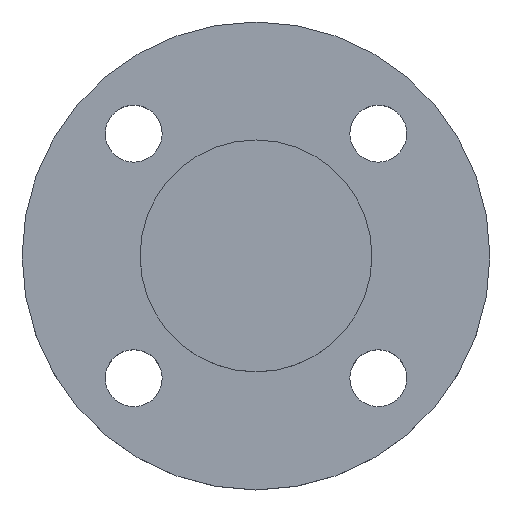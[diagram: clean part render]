
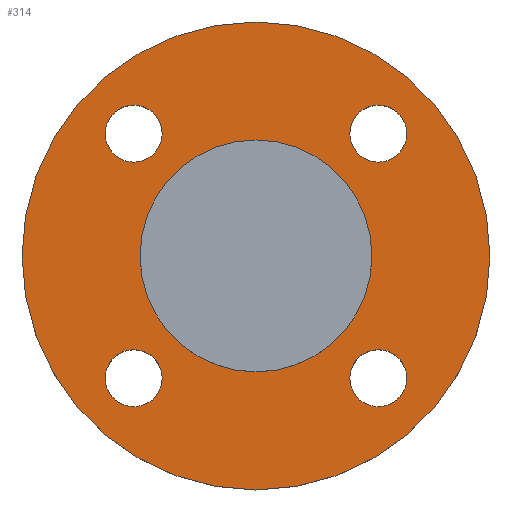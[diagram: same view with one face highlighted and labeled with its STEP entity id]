
A CAD part, top view. The second image highlights one B-rep face of the part: STEP entity #314.
In plain terms, the highlighted planar face has unit normal (0, 0, 1).
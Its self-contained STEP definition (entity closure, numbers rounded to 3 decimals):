
#2 = EDGE_CURVE ( 'NONE', #334, #336, #414, .T. ) ;
#11 = CIRCLE ( 'NONE', #26, 7. ) ;
#12 = CARTESIAN_POINT ( 'NONE',  ( 28.5, 0., -4.5 ) ) ;
#16 = EDGE_CURVE ( 'NONE', #481, #331, #11, .T. ) ;
#26 = AXIS2_PLACEMENT_3D ( 'NONE', #515, #517, #518 ) ;
#36 = CARTESIAN_POINT ( 'NONE',  ( 57.5, 0., -4.5 ) ) ;
#47 = EDGE_CURVE ( 'NONE', #485, #333, #251, .T. ) ;
#58 = AXIS2_PLACEMENT_3D ( 'NONE', #309, #298, #299 ) ;
#61 = DIRECTION ( 'NONE',  ( 0., 0., -1. ) ) ;
#64 = DIRECTION ( 'NONE',  ( 0., 0., -1. ) ) ;
#66 = EDGE_CURVE ( 'NONE', #442, #470, #339, .T. ) ;
#67 = DIRECTION ( 'NONE',  ( 1., 0., 0. ) ) ;
#73 = DIRECTION ( 'NONE',  ( 0., 0., -1. ) ) ;
#77 = CIRCLE ( 'NONE', #58, 57.5 ) ;
#80 = CARTESIAN_POINT ( 'NONE',  ( -30.052, -30.052, -4.5 ) ) ;
#81 = CARTESIAN_POINT ( 'NONE',  ( -57.5, 0., -4.5 ) ) ;
#83 = CARTESIAN_POINT ( 'NONE',  ( -30.052, 30.052, -4.5 ) ) ;
#94 = AXIS2_PLACEMENT_3D ( 'NONE', #205, #207, #213 ) ;
#116 = AXIS2_PLACEMENT_3D ( 'NONE', #636, #647, #648 ) ;
#125 = CIRCLE ( 'NONE', #94, 7. ) ;
#135 = FACE_BOUND ( 'NONE', #330, .T. ) ;
#136 = FACE_BOUND ( 'NONE', #492, .T. ) ;
#138 = FACE_BOUND ( 'NONE', #427, .T. ) ;
#139 = FACE_BOUND ( 'NONE', #379, .T. ) ;
#140 = FACE_BOUND ( 'NONE', #487, .T. ) ;
#141 = FACE_OUTER_BOUND ( 'NONE', #475, .T. ) ;
#142 = PLANE ( 'NONE',  #219 ) ;
#143 = CARTESIAN_POINT ( 'NONE',  ( 28.5, 0., -4.5 ) ) ;
#144 = DIRECTION ( 'NONE',  ( 0., 0., 1. ) ) ;
#145 = DIRECTION ( 'NONE',  ( 1., 0., 0. ) ) ;
#152 = CIRCLE ( 'NONE', #116, 57.5 ) ;
#166 = CIRCLE ( 'NONE', #268, 7. ) ;
#186 = CARTESIAN_POINT ( 'NONE',  ( 30.052, -30.052, -4.5 ) ) ;
#188 = DIRECTION ( 'NONE',  ( 0., 0., -1. ) ) ;
#189 = DIRECTION ( 'NONE',  ( 1., 0., 0. ) ) ;
#192 = CARTESIAN_POINT ( 'NONE',  ( 0., 0., -4.5 ) ) ;
#195 = DIRECTION ( 'NONE',  ( 1., 0., 0. ) ) ;
#199 = CARTESIAN_POINT ( 'NONE',  ( -23.052, -30.052, -4.5 ) ) ;
#205 = CARTESIAN_POINT ( 'NONE',  ( 30.052, 30.052, -4.5 ) ) ;
#206 = DIRECTION ( 'NONE',  ( -1., 0., 0. ) ) ;
#207 = DIRECTION ( 'NONE',  ( 0., 0., -1. ) ) ;
#209 = CIRCLE ( 'NONE', #287, 7. ) ;
#213 = DIRECTION ( 'NONE',  ( 1., 0., 0. ) ) ;
#219 = AXIS2_PLACEMENT_3D ( 'NONE', #143, #144, #145 ) ;
#222 = AXIS2_PLACEMENT_3D ( 'NONE', #502, #503, #505 ) ;
#229 = AXIS2_PLACEMENT_3D ( 'NONE', #530, #531, #532 ) ;
#234 = AXIS2_PLACEMENT_3D ( 'NONE', #542, #543, #545 ) ;
#248 = CIRCLE ( 'NONE', #410, 7. ) ;
#251 = CIRCLE ( 'NONE', #229, 28.5 ) ;
#255 = EDGE_CURVE ( 'NONE', #486, #484, #152, .T. ) ;
#259 = CARTESIAN_POINT ( 'NONE',  ( -37.052, -30.052, -4.5 ) ) ;
#262 = CARTESIAN_POINT ( 'NONE',  ( -28.5, 0., -4.5 ) ) ;
#263 = CARTESIAN_POINT ( 'NONE',  ( -37.052, 30.052, -4.5 ) ) ;
#264 = CARTESIAN_POINT ( 'NONE',  ( -23.052, 30.052, -4.5 ) ) ;
#265 = CARTESIAN_POINT ( 'NONE',  ( 23.052, -30.052, -4.5 ) ) ;
#268 = AXIS2_PLACEMENT_3D ( 'NONE', #186, #188, #189 ) ;
#274 = AXIS2_PLACEMENT_3D ( 'NONE', #294, #296, #303 ) ;
#275 = CARTESIAN_POINT ( 'NONE',  ( 37.052, -30.052, -4.5 ) ) ;
#287 = AXIS2_PLACEMENT_3D ( 'NONE', #83, #73, #195 ) ;
#294 = CARTESIAN_POINT ( 'NONE',  ( 30.052, -30.052, -4.5 ) ) ;
#296 = DIRECTION ( 'NONE',  ( 0., 0., -1. ) ) ;
#298 = DIRECTION ( 'NONE',  ( 0., 0., -1. ) ) ;
#299 = DIRECTION ( 'NONE',  ( -1., 0., 0. ) ) ;
#301 = CARTESIAN_POINT ( 'NONE',  ( 23.052, 30.052, -4.5 ) ) ;
#303 = DIRECTION ( 'NONE',  ( 1., 0., 0. ) ) ;
#305 = CARTESIAN_POINT ( 'NONE',  ( 37.052, 30.052, -4.5 ) ) ;
#309 = CARTESIAN_POINT ( 'NONE',  ( 0., 0., -4.5 ) ) ;
#314 = ADVANCED_FACE ( 'NONE', ( #135, #136, #138, #139, #140, #141 ), #142, .T. ) ;
#316 = AXIS2_PLACEMENT_3D ( 'NONE', #192, #64, #206 ) ;
#330 = EDGE_LOOP ( 'NONE', ( #393, #394 ) ) ;
#331 = VERTEX_POINT ( 'NONE', #259 ) ;
#333 = VERTEX_POINT ( 'NONE', #262 ) ;
#334 = VERTEX_POINT ( 'NONE', #263 ) ;
#336 = VERTEX_POINT ( 'NONE', #264 ) ;
#338 = VERTEX_POINT ( 'NONE', #265 ) ;
#339 = CIRCLE ( 'NONE', #234, 7. ) ;
#363 = VERTEX_POINT ( 'NONE', #275 ) ;
#379 = EDGE_LOOP ( 'NONE', ( #400, #401 ) ) ;
#393 = ORIENTED_EDGE ( 'NONE', *, *, #473, .T. ) ;
#394 = ORIENTED_EDGE ( 'NONE', *, *, #440, .T. ) ;
#396 = ORIENTED_EDGE ( 'NONE', *, *, #16, .T. ) ;
#397 = ORIENTED_EDGE ( 'NONE', *, *, #562, .T. ) ;
#398 = ORIENTED_EDGE ( 'NONE', *, *, #501, .T. ) ;
#399 = ORIENTED_EDGE ( 'NONE', *, *, #2, .T. ) ;
#400 = ORIENTED_EDGE ( 'NONE', *, *, #66, .T. ) ;
#401 = ORIENTED_EDGE ( 'NONE', *, *, #615, .T. ) ;
#402 = ORIENTED_EDGE ( 'NONE', *, *, #573, .T. ) ;
#403 = ORIENTED_EDGE ( 'NONE', *, *, #47, .T. ) ;
#404 = ORIENTED_EDGE ( 'NONE', *, *, #450, .F. ) ;
#405 = ORIENTED_EDGE ( 'NONE', *, *, #255, .F. ) ;
#410 = AXIS2_PLACEMENT_3D ( 'NONE', #80, #61, #67 ) ;
#414 = CIRCLE ( 'NONE', #222, 7. ) ;
#427 = EDGE_LOOP ( 'NONE', ( #398, #399 ) ) ;
#440 = EDGE_CURVE ( 'NONE', #338, #363, #616, .T. ) ;
#442 = VERTEX_POINT ( 'NONE', #305 ) ;
#450 = EDGE_CURVE ( 'NONE', #484, #486, #77, .T. ) ;
#470 = VERTEX_POINT ( 'NONE', #301 ) ;
#473 = EDGE_CURVE ( 'NONE', #363, #338, #166, .T. ) ;
#475 = EDGE_LOOP ( 'NONE', ( #404, #405 ) ) ;
#481 = VERTEX_POINT ( 'NONE', #199 ) ;
#484 = VERTEX_POINT ( 'NONE', #36 ) ;
#485 = VERTEX_POINT ( 'NONE', #12 ) ;
#486 = VERTEX_POINT ( 'NONE', #81 ) ;
#487 = EDGE_LOOP ( 'NONE', ( #402, #403 ) ) ;
#492 = EDGE_LOOP ( 'NONE', ( #396, #397 ) ) ;
#501 = EDGE_CURVE ( 'NONE', #336, #334, #209, .T. ) ;
#502 = CARTESIAN_POINT ( 'NONE',  ( -30.052, 30.052, -4.5 ) ) ;
#503 = DIRECTION ( 'NONE',  ( 0., 0., -1. ) ) ;
#505 = DIRECTION ( 'NONE',  ( 1., 0., 0. ) ) ;
#515 = CARTESIAN_POINT ( 'NONE',  ( -30.052, -30.052, -4.5 ) ) ;
#517 = DIRECTION ( 'NONE',  ( 0., 0., -1. ) ) ;
#518 = DIRECTION ( 'NONE',  ( 1., 0., 0. ) ) ;
#530 = CARTESIAN_POINT ( 'NONE',  ( 0., 0., -4.5 ) ) ;
#531 = DIRECTION ( 'NONE',  ( 0., 0., -1. ) ) ;
#532 = DIRECTION ( 'NONE',  ( -1., 0., 0. ) ) ;
#542 = CARTESIAN_POINT ( 'NONE',  ( 30.052, 30.052, -4.5 ) ) ;
#543 = DIRECTION ( 'NONE',  ( 0., 0., -1. ) ) ;
#545 = DIRECTION ( 'NONE',  ( 1., 0., 0. ) ) ;
#562 = EDGE_CURVE ( 'NONE', #331, #481, #248, .T. ) ;
#573 = EDGE_CURVE ( 'NONE', #333, #485, #602, .T. ) ;
#602 = CIRCLE ( 'NONE', #316, 28.5 ) ;
#615 = EDGE_CURVE ( 'NONE', #470, #442, #125, .T. ) ;
#616 = CIRCLE ( 'NONE', #274, 7. ) ;
#636 = CARTESIAN_POINT ( 'NONE',  ( 0., 0., -4.5 ) ) ;
#647 = DIRECTION ( 'NONE',  ( 0., 0., -1. ) ) ;
#648 = DIRECTION ( 'NONE',  ( -1., 0., 0. ) ) ;
